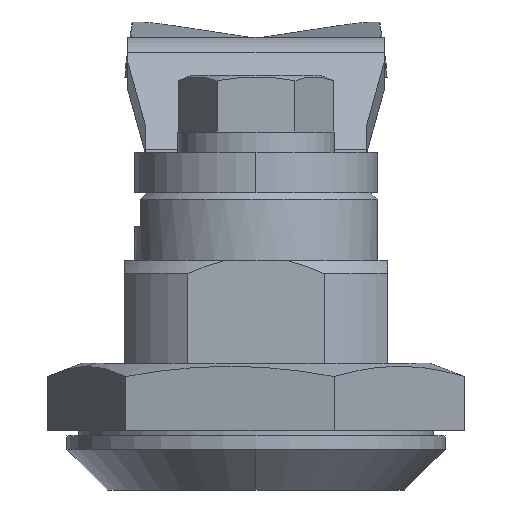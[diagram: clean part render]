
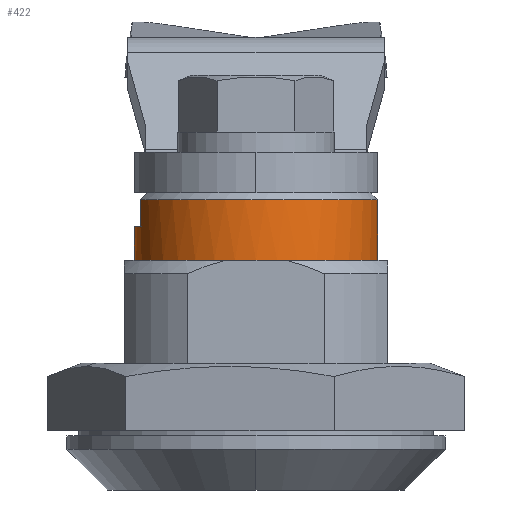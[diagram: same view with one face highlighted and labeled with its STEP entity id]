
A CAD part, front view. The second image highlights one B-rep face of the part: STEP entity #422.
In plain terms, the highlighted cylindrical face has radius 9 mm (diameter 18 mm), a partial arc.
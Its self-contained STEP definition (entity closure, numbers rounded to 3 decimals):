
#402 = EDGE_CURVE ( 'NONE', #1983, #1982, #5995, .T. ) ;
#422 = ADVANCED_FACE ( 'NONE', ( #6014 ), #6070, .T. ) ;
#423 = EDGE_LOOP ( 'NONE', ( #479, #480, #481, #482, #485, #488 ) ) ;
#479 = ORIENTED_EDGE ( 'NONE', *, *, #1902, .F. ) ;
#480 = ORIENTED_EDGE ( 'NONE', *, *, #402, .T. ) ;
#481 = ORIENTED_EDGE ( 'NONE', *, *, #1967, .T. ) ;
#482 = ORIENTED_EDGE ( 'NONE', *, *, #483, .F. ) ;
#483 = EDGE_CURVE ( 'NONE', #484, #1965, #6149, .T. ) ;
#484 = VERTEX_POINT ( 'NONE', #6150 ) ;
#485 = ORIENTED_EDGE ( 'NONE', *, *, #486, .F. ) ;
#486 = EDGE_CURVE ( 'NONE', #487, #484, #6144, .T. ) ;
#487 = VERTEX_POINT ( 'NONE', #6140 ) ;
#488 = ORIENTED_EDGE ( 'NONE', *, *, #489, .T. ) ;
#489 = EDGE_CURVE ( 'NONE', #487, #1903, #6139, .T. ) ;
#1902 = EDGE_CURVE ( 'NONE', #1983, #1903, #8675, .T. ) ;
#1903 = VERTEX_POINT ( 'NONE', #8668 ) ;
#1965 = VERTEX_POINT ( 'NONE', #8840 ) ;
#1967 = EDGE_CURVE ( 'NONE', #1982, #1965, #8839, .T. ) ;
#1982 = VERTEX_POINT ( 'NONE', #8871 ) ;
#1983 = VERTEX_POINT ( 'NONE', #8870 ) ;
#5991 = DIRECTION ( 'NONE',  ( 1., 0., 0. ) ) ;
#5992 = DIRECTION ( 'NONE',  ( 0., 0., 1. ) ) ;
#5993 = CARTESIAN_POINT ( 'NONE',  ( 0., 0., 17.2 ) ) ;
#5994 = AXIS2_PLACEMENT_3D ( 'NONE', #5993, #5992, #5991 ) ;
#5995 = CIRCLE ( 'NONE', #5994, 9. ) ;
#6014 = FACE_OUTER_BOUND ( 'NONE', #423, .T. ) ;
#6066 = DIRECTION ( 'NONE',  ( 1., 0., 0. ) ) ;
#6067 = DIRECTION ( 'NONE',  ( 0., 0., 1. ) ) ;
#6068 = CARTESIAN_POINT ( 'NONE',  ( 0., 0., 30.425 ) ) ;
#6069 = AXIS2_PLACEMENT_3D ( 'NONE', #6068, #6067, #6066 ) ;
#6070 = CYLINDRICAL_SURFACE ( 'NONE', #6069, 9. ) ;
#6135 = DIRECTION ( 'NONE',  ( 1., 0., 0. ) ) ;
#6136 = DIRECTION ( 'NONE',  ( 0., 0., -1. ) ) ;
#6137 = CARTESIAN_POINT ( 'NONE',  ( 0., 0., 19.7 ) ) ;
#6138 = AXIS2_PLACEMENT_3D ( 'NONE', #6137, #6136, #6135 ) ;
#6139 = CIRCLE ( 'NONE', #6138, 9. ) ;
#6140 = CARTESIAN_POINT ( 'NONE',  ( -8.553, -2.8, 19.7 ) ) ;
#6141 = DIRECTION ( 'NONE',  ( 0., 0., 1. ) ) ;
#6142 = VECTOR ( 'NONE', #6141, 1000. ) ;
#6143 = CARTESIAN_POINT ( 'NONE',  ( -8.553, -2.8, 30.425 ) ) ;
#6144 = LINE ( 'NONE', #6143, #6142 ) ;
#6145 = DIRECTION ( 'NONE',  ( 1., 0., 0. ) ) ;
#6146 = DIRECTION ( 'NONE',  ( 0., 0., 1. ) ) ;
#6147 = CARTESIAN_POINT ( 'NONE',  ( 0., 0., 21.7 ) ) ;
#6148 = AXIS2_PLACEMENT_3D ( 'NONE', #6147, #6146, #6145 ) ;
#6149 = CIRCLE ( 'NONE', #6148, 9. ) ;
#6150 = CARTESIAN_POINT ( 'NONE',  ( -8.553, -2.8, 21.7 ) ) ;
#8668 = CARTESIAN_POINT ( 'NONE',  ( -9., 0., 19.7 ) ) ;
#8669 = DIRECTION ( 'NONE',  ( 0., 0., 1. ) ) ;
#8670 = VECTOR ( 'NONE', #8669, 1000. ) ;
#8671 = CARTESIAN_POINT ( 'NONE',  ( -9., 0., 30.425 ) ) ;
#8675 = LINE ( 'NONE', #8671, #8670 ) ;
#8836 = DIRECTION ( 'NONE',  ( 0., 0., 1. ) ) ;
#8837 = VECTOR ( 'NONE', #8836, 1000. ) ;
#8838 = CARTESIAN_POINT ( 'NONE',  ( 9., 0., 30.425 ) ) ;
#8839 = LINE ( 'NONE', #8838, #8837 ) ;
#8840 = CARTESIAN_POINT ( 'NONE',  ( 9., 0., 21.7 ) ) ;
#8870 = CARTESIAN_POINT ( 'NONE',  ( -9., 0., 17.2 ) ) ;
#8871 = CARTESIAN_POINT ( 'NONE',  ( 9., 0., 17.2 ) ) ;
